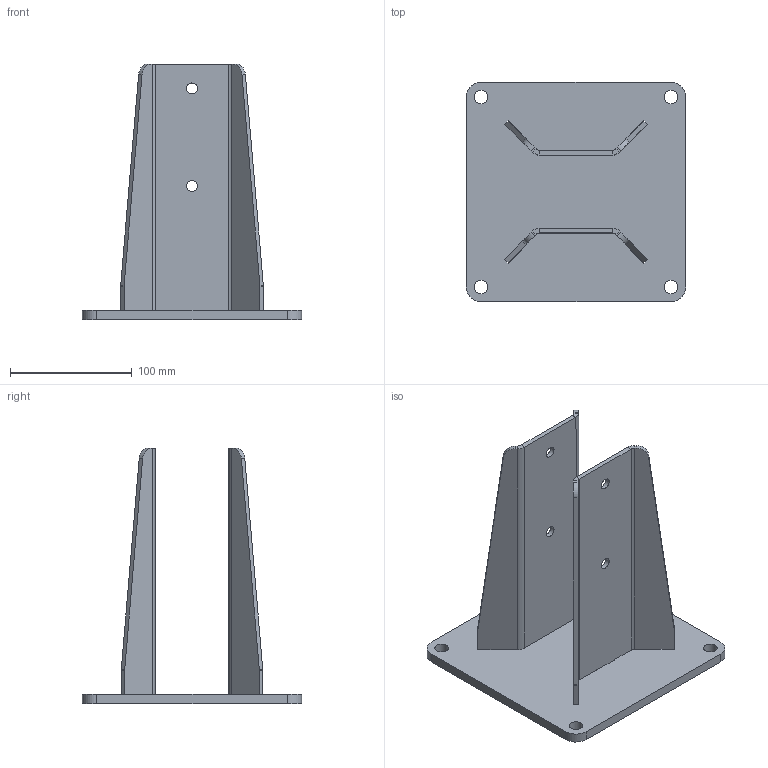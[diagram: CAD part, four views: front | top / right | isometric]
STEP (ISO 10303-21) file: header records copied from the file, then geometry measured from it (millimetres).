
FILE_DESCRIPTION(/* description */ ('FOOT FOR PROFILE 100-1015'),/* implementation_level */ '2;1');
FILE_NAME(/* name */ '\\carryline.intra\privat\users\mathias\Desktop\Tillfälliga filer\100-1141.stp',/* time_stamp */ '2018-11-19T08:58:52+01:00',/* author */ ('PL'),/* organization */ ('CARRYLINE'),/* preprocessor_version */ 'ST-DEVELOPER v17',/* originating_system */ 'Autodesk Inventor 2018',/* authorisation */ '');
FILE_SCHEMA (('AUTOMOTIVE_DESIGN { 1 0 10303 214 3 1 1 }'));
Length unit declared in the file: millimetre
Products named in the file (3): 100-1141; 16827_2; 16827_1
Assembly tree (3 placements, depth 2):
  100-1141
    16827_1  x2
    16827_2
Bounding box: 180 x 180 x 210 mm (x, y, z)
Volume: 438415.1 mm3; surface area: 170776.6 mm2
Topology: 3 solids, 3 shells, 114 faces, 300 edges, 192 vertices
Faces by surface type: plane 86, cylinder 28
Full cylindrical faces by diameter (mm): 9 x4, 11 x4
Entity records: 2531 total; most frequent: CARTESIAN_POINT 422, ORIENTED_EDGE 412, DIRECTION 412, EDGE_CURVE 206, LINE 164, VECTOR 164, VERTEX_POINT 134, AXIS2_PLACEMENT_3D 124
